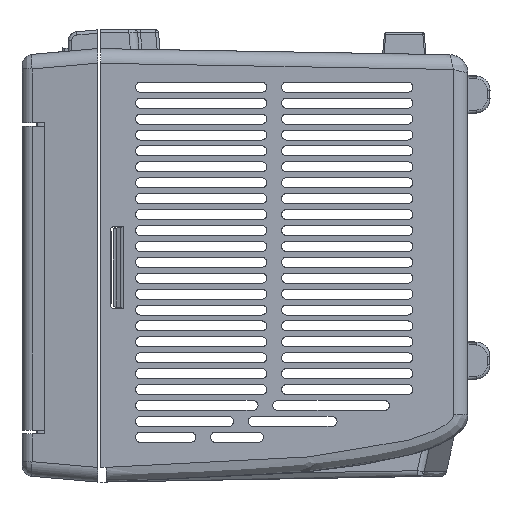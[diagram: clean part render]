
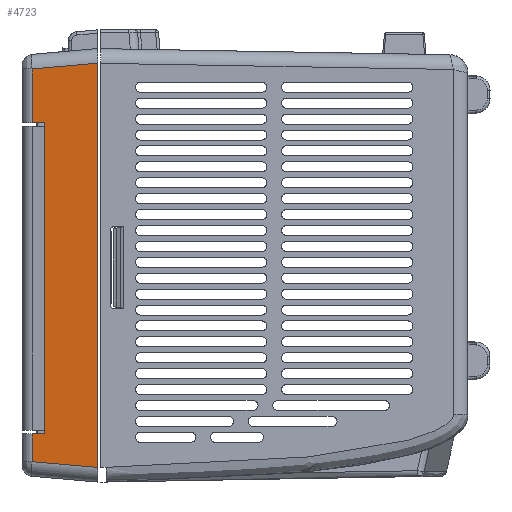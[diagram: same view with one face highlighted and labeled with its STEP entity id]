
A CAD part, left-side view. The second image highlights one B-rep face of the part: STEP entity #4723.
In plain terms, the highlighted planar face has unit normal (-0.996, 0.087, 0).
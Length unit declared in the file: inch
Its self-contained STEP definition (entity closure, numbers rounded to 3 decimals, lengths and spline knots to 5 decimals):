
#774=DIRECTION('',(-0.087,-0.996,0.));
#775=VECTOR('',#774,0.17226);
#776=CARTESIAN_POINT('',(-0.93299,-0.13693,
-4.60133));
#777=LINE('',#776,#775);
#778=DIRECTION('',(0.,0.,1.));
#779=VECTOR('',#778,4.23414);
#780=CARTESIAN_POINT('',(-0.948,-0.30853,
-4.60133));
#781=LINE('',#780,#779);
#782=DIRECTION('',(0.087,0.996,0.));
#783=VECTOR('',#782,0.17226);
#784=CARTESIAN_POINT('',(-0.948,-0.30853,
-0.36719));
#785=LINE('',#784,#783);
#786=DIRECTION('',(0.,0.,-1.));
#787=VECTOR('',#786,5.50152);
#788=CARTESIAN_POINT('',(-1.01112,-1.03,0.44367));
#789=LINE('',#788,#787);
#794=DIRECTION('',(-0.087,-0.992,0.087));
#795=VECTOR('',#794,0.89988);
#796=CARTESIAN_POINT('',(-0.93299,-0.13693,
0.36553));
#797=LINE('',#796,#795);
#808=CARTESIAN_POINT('',(-1.01112,-1.03,0.44367));
#810=DIRECTION('',(0.087,0.992,0.087));
#811=VECTOR('',#810,0.89988);
#812=CARTESIAN_POINT('',(-1.01112,-1.03,-5.05786));
#813=LINE('',#812,#811);
#814=CARTESIAN_POINT('',(-1.01112,-1.03,-5.05786));
#910=DIRECTION('',(0.,0.,-1.));
#911=VECTOR('',#910,0.37839);
#912=CARTESIAN_POINT('',(-0.93299,-0.13693,
-4.60133));
#913=LINE('',#912,#911);
#932=DIRECTION('',(0.,0.,-1.));
#933=VECTOR('',#932,0.73272);
#934=CARTESIAN_POINT('',(-0.93299,-0.13693,
0.36553));
#935=LINE('',#934,#933);
#3435=VERTEX_POINT('',#808);
#3436=VERTEX_POINT('',#814);
#3438=CARTESIAN_POINT('',(-0.93299,-0.13693,
0.36553));
#3439=VERTEX_POINT('',#3438);
#3442=CARTESIAN_POINT('',(-0.93299,-0.13693,
-4.97972));
#3443=VERTEX_POINT('',#3442);
#4274=CARTESIAN_POINT('',(-0.93299,-0.13693,
-4.60133));
#4276=VERTEX_POINT('',#4274);
#4278=CARTESIAN_POINT('',(-0.948,-0.30853,
-4.60133));
#4279=VERTEX_POINT('',#4278);
#4280=CARTESIAN_POINT('',(-0.948,-0.30853,
-0.36719));
#4281=VERTEX_POINT('',#4280);
#4283=CARTESIAN_POINT('',(-0.93299,-0.13693,
-0.36719));
#4285=VERTEX_POINT('',#4283);
#4700=CARTESIAN_POINT('',(-1.01112,-1.03,0.69015));
#4701=DIRECTION('',(-0.996,0.087,0.));
#4702=DIRECTION('',(0.,0.,1.));
#4703=AXIS2_PLACEMENT_3D('',#4700,#4701,#4702);
#4704=PLANE('',#4703);
#4706=ORIENTED_EDGE('',*,*,#4705,.T.);
#4708=ORIENTED_EDGE('',*,*,#4707,.T.);
#4710=ORIENTED_EDGE('',*,*,#4709,.T.);
#4712=ORIENTED_EDGE('',*,*,#4711,.F.);
#4714=ORIENTED_EDGE('',*,*,#4713,.T.);
#4716=ORIENTED_EDGE('',*,*,#4715,.T.);
#4718=ORIENTED_EDGE('',*,*,#4717,.T.);
#4720=ORIENTED_EDGE('',*,*,#4719,.F.);
#4721=EDGE_LOOP('',(#4706,#4708,#4710,#4712,#4714,#4716,#4718,#4720));
#4722=FACE_OUTER_BOUND('',#4721,.F.);
#4723=ADVANCED_FACE('',(#4722),#4704,.T.);
#4705=EDGE_CURVE('',#4276,#4279,#777,.T.);
#4707=EDGE_CURVE('',#4279,#4281,#781,.T.);
#4709=EDGE_CURVE('',#4281,#4285,#785,.T.);
#4711=EDGE_CURVE('',#3439,#4285,#935,.T.);
#4713=EDGE_CURVE('',#3439,#3435,#797,.T.);
#4715=EDGE_CURVE('',#3435,#3436,#789,.T.);
#4717=EDGE_CURVE('',#3436,#3443,#813,.T.);
#4719=EDGE_CURVE('',#4276,#3443,#913,.T.);
